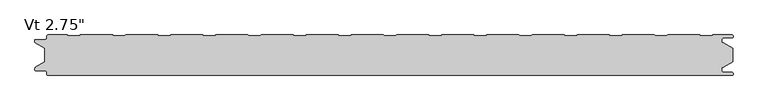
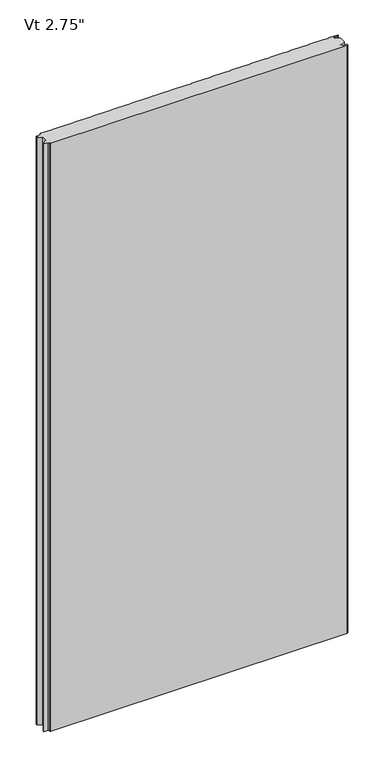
"""IFC4 building model written with IfcOpenShell, lengths in millimetres: plate geometry."""

from ifc_helpers import new_model, si_unit, frame, origin, place, context, project, spatial, polyline, circle_curve, source, transform, mapped, element, save
from ifc_brep_helpers import plane_surface, cylinder_surface, revolved_surface, advanced_brep


def plate_7eeeccd8(model_context):
    return source(origin(), model_context, "Body", "AdvancedBrep", [
        advanced_brep(
        [(-572.4125501, -66.9227194, 2400.0), (-570.4352761, -68.8999935, 2400.0), (574.5475652, -68.9, 2400.0), (576.5248337, -66.9227315, 2400.0), (576.5248337, -65.8806329, 2400.0), (574.5475652, -63.9033643, 2400.0), (560.3591802, -63.9033643, 2400.0), (557.7713036, -61.3154878, 2400.0), (557.7713036, -56.9950697, 2400.0), (557.1628365, -56.4060762, 2400.0), (554.7857432, -56.4060762, 2400.0), (554.7857432, -55.4066023, 2400.0), (560.2280123, -55.4066023, 2400.0), (576.2625, -46.1490865, 2400.0), (576.2625, -23.7509179, 2400.0), (560.2280123, -14.4934021, 2400.0), (554.7857432, -14.4934021, 2400.0), (554.7857432, -13.4939282, 2400.0), (557.1628365, -13.4939282, 2400.0), (557.7713036, -12.9049347, 2400.0), (557.7713036, -8.5845165, 2400.0), (560.3591802, -5.99664, 2400.0), (574.5475652, -5.99664, 2400.0), (576.5248337, -4.0193715, 2400.0), (576.5248337, -2.9772729, 2400.0), (574.5475652, -1.0000044, 2400.0), (542.3760351, -1.0000044, 2400.0), (541.3035142, -2.1911595, 2400.0), (521.5205195, -2.1911595, 2400.0), (520.4479947, -1.0, 2400.0), (466.7534187, -1.0, 2400.0), (465.6808939, -2.1911595, 2400.0), (445.8978992, -2.1911595, 2400.0), (444.8253744, -1.0, 2400.0), (391.1307985, -1.0, 2400.0), (390.0582736, -2.1911595, 2400.0), (370.275279, -2.1911595, 2400.0), (369.2027541, -1.0, 2400.0), (315.5081782, -1.0, 2400.0), (314.4356534, -2.1911595, 2400.0), (294.6526587, -2.1911595, 2400.0), (293.5801339, -1.0, 2400.0), (239.885558, -1.0, 2400.0), (238.8130331, -2.1911595, 2400.0), (219.0300384, -2.1911595, 2400.0), (217.9575136, -1.0, 2400.0), (164.2629377, -1.0, 2400.0), (163.1904129, -2.1911595, 2400.0), (143.4074182, -2.1911595, 2400.0), (142.3348933, -1.0, 2400.0), (88.6403174, -1.0, 2400.0), (87.5677926, -2.1911595, 2400.0), (67.7847979, -2.1911595, 2400.0), (66.7122731, -1.0, 2400.0), (13.0176972, -1.0, 2400.0), (11.9451723, -2.1911595, 2400.0), (-7.8378224, -2.1911595, 2400.0), (-8.9103472, -1.0, 2400.0), (-62.6049231, -1.0, 2400.0), (-63.6774479, -2.1911595, 2400.0), (-83.4604426, -2.1911595, 2400.0), (-84.5329675, -1.0, 2400.0), (-138.2275434, -1.0, 2400.0), (-139.3000682, -2.1911595, 2400.0), (-159.0830629, -2.1911595, 2400.0), (-160.1555877, -1.0, 2400.0), (-213.8501636, -1.0, 2400.0), (-214.9226885, -2.1911595, 2400.0), (-234.7056831, -2.1911595, 2400.0), (-235.778208, -1.0, 2400.0), (-289.4727839, -1.0, 2400.0), (-290.5453087, -2.1911595, 2400.0), (-310.3283034, -2.1911595, 2400.0), (-311.4008282, -1.0, 2400.0), (-365.0954042, -1.0, 2400.0), (-366.167929, -2.1911595, 2400.0), (-385.9509237, -2.1911595, 2400.0), (-387.0234485, -1.0, 2400.0), (-440.7180244, -1.0, 2400.0), (-441.7905493, -2.1911595, 2400.0), (-461.5735439, -2.1911595, 2400.0), (-462.6460688, -1.0, 2400.0), (-516.3406447, -1.0, 2400.0), (-517.4131695, -2.1911595, 2400.0), (-537.1961642, -2.1911595, 2400.0), (-538.268689, -1.0000109, 2400.0), (-570.4352761, -1.0000109, 2400.0), (-572.4125501, -2.9772849, 2400.0), (-572.4125501, -5.2691749, 2400.0), (-576.3898173, -9.246442, 2400.0), (-591.9862417, -9.246442, 2400.0), (-592.5741186, -9.8343189, 2400.0), (-592.5741186, -12.9058679, 2400.0), (-591.986242, -13.4937446, 2400.0), (-589.6312064, -13.4937446, 2400.0), (-589.6312064, -14.4937446, 2400.0), (-591.9207851, -14.4937446, 2400.0), (-576.2625, -23.7509179, 2400.0), (-576.2625, -46.1490865, 2400.0), (-591.9207851, -55.4062598, 2400.0), (-589.6312064, -55.4062598, 2400.0), (-589.6312064, -56.4062598, 2400.0), (-591.986242, -56.4062598, 2400.0), (-592.5741186, -56.9941365, 2400.0), (-592.5741186, -60.0656854, 2400.0), (-591.9862417, -60.6535623, 2400.0), (-576.3898173, -60.6535623, 2400.0), (-572.4125501, -64.6308295, 2400.0), (-572.4125501, -66.9227194, 0.0), (-572.4125501, -64.6308295, 0.0), (-576.3898173, -60.6535623, 0.0), (-591.9862417, -60.6535623, 0.0), (-592.5741186, -60.0656854, 0.0), (-592.5741186, -56.9941365, 0.0), (-591.986242, -56.4062598, 0.0), (-589.6312064, -56.4062598, 0.0), (-589.6312064, -55.4062598, 0.0), (-591.9207851, -55.4062598, 0.0), (-576.2625, -46.1490865, 0.0), (-576.2625, -23.7509179, 0.0), (-591.9207851, -14.4937446, 0.0), (-589.6312064, -14.4937446, 0.0), (-589.6312064, -13.4937446, 0.0), (-591.986242, -13.4937446, 0.0), (-592.5741186, -12.9058679, 0.0), (-592.5741186, -9.8343189, 0.0), (-591.9862417, -9.246442, 0.0), (-576.3898173, -9.246442, 0.0), (-572.4125501, -5.2691749, 0.0), (-572.4125501, -2.9772849, 0.0), (-570.4352761, -1.0000109, 0.0), (-538.268689, -1.0000109, 0.0), (-537.1961642, -2.1911595, 0.0), (-517.4131695, -2.1911595, 0.0), (-516.3406447, -1.0, 0.0), (-462.6460688, -1.0, 0.0), (-461.5735439, -2.1911595, 0.0), (-441.7905493, -2.1911595, 0.0), (-440.7180244, -1.0, 0.0), (-387.0234485, -1.0, 0.0), (-385.9509237, -2.1911595, 0.0), (-366.167929, -2.1911595, 0.0), (-365.0954042, -1.0, 0.0), (-311.4008282, -1.0, 0.0), (-310.3283034, -2.1911595, 0.0), (-290.5453087, -2.1911595, 0.0), (-289.4727839, -1.0, 0.0), (-235.778208, -1.0, 0.0), (-234.7056831, -2.1911595, 0.0), (-214.9226885, -2.1911595, 0.0), (-213.8501636, -1.0, 0.0), (-160.1555877, -1.0, 0.0), (-159.0830629, -2.1911595, 0.0), (-139.3000682, -2.1911595, 0.0), (-138.2275434, -1.0, 0.0), (-84.5329675, -1.0, 0.0), (-83.4604426, -2.1911595, 0.0), (-63.6774479, -2.1911595, 0.0), (-62.6049231, -1.0, 0.0), (-8.9103472, -1.0, 0.0), (-7.8378224, -2.1911595, 0.0), (11.9451723, -2.1911595, 0.0), (13.0176972, -1.0, 0.0), (66.7122731, -1.0, 0.0), (67.7847979, -2.1911595, 0.0), (87.5677926, -2.1911595, 0.0), (88.6403174, -1.0, 0.0), (142.3348933, -1.0, 0.0), (143.4074182, -2.1911595, 0.0), (163.1904129, -2.1911595, 0.0), (164.2629377, -1.0, 0.0), (217.9575136, -1.0, 0.0), (219.0300384, -2.1911595, 0.0), (238.8130331, -2.1911595, 0.0), (239.885558, -1.0, 0.0), (293.5801339, -1.0, 0.0), (294.6526587, -2.1911595, 0.0), (314.4356534, -2.1911595, 0.0), (315.5081782, -1.0, 0.0), (369.2027541, -1.0, 0.0), (370.275279, -2.1911595, 0.0), (390.0582736, -2.1911595, 0.0), (391.1307985, -1.0, 0.0), (444.8253744, -1.0, 0.0), (445.8978992, -2.1911595, 0.0), (465.6808939, -2.1911595, 0.0), (466.7534187, -1.0, 0.0), (520.4479947, -1.0, 0.0), (521.5205195, -2.1911595, 0.0), (541.3035142, -2.1911595, 0.0), (542.3760351, -1.0000044, 0.0), (574.5475652, -1.0000044, 0.0), (576.5248337, -2.9772729, 0.0), (576.5248337, -4.0193715, 0.0), (574.5475652, -5.99664, 0.0), (560.3591802, -5.99664, 0.0), (557.7713036, -8.5845165, 0.0), (557.7713036, -12.9049347, 0.0), (557.1628365, -13.4939282, 0.0), (554.7857432, -13.4939282, 0.0), (554.7857432, -14.4934021, 0.0), (560.2280123, -14.4934021, 0.0), (576.2625, -23.7509179, 0.0), (576.2625, -46.1490865, 0.0), (560.2280123, -55.4066023, 0.0), (554.7857432, -55.4066023, 0.0), (554.7857432, -56.4060762, 0.0), (557.1628365, -56.4060762, 0.0), (557.7713036, -56.9950697, 0.0), (557.7713036, -61.3154878, 0.0), (560.3591802, -63.9033643, 0.0), (574.5475652, -63.9033643, 0.0), (576.5248337, -65.8806329, 0.0), (576.5248337, -66.9227315, 0.0), (574.5475652, -68.9, 0.0), (-570.4352761, -68.9, 0.0)],
        [
            (0, 1, circle_curve(frame((-570.4352761, -66.9227194, 2400.0), z_axis=(0.0, 0.0, 1.0), x_axis=(-1.0, 0.0, 0.0)), 1.977274)),
            (1, 2),
            (2, 3, circle_curve(frame((574.5475652, -66.9227315, 2400.0), z_axis=(0.0, 0.0, 1.0), x_axis=(-1.0, 0.0, 0.0)), 1.9772685)),
            (3, 4),
            (4, 5, circle_curve(frame((574.5475652, -65.8806329, 2400.0), z_axis=(0.0, 0.0, 1.0), x_axis=(-1.0, 0.0, 0.0)), 1.9772685)),
            (5, 6),
            (6, 7, circle_curve(frame((560.3591802, -61.3154878, 2400.0), z_axis=(0.0, 0.0, -1.0), x_axis=(-1.0, 0.0, 0.0)), 2.5878765)),
            (7, 8),
            (8, 9, circle_curve(frame((557.1819985, -56.9950697, 2400.0), z_axis=(0.0, 0.0, 1.0), x_axis=(-1.0, 0.0, 0.0)), 0.5893051)),
            (9, 10),
            (10, 11),
            (11, 12),
            (12, 13),
            (13, 14),
            (14, 15),
            (15, 16),
            (16, 17),
            (17, 18),
            (18, 19, circle_curve(frame((557.1819985, -12.9049347, 2400.0), z_axis=(0.0, 0.0, 1.0), x_axis=(0.0, 1.0, 0.0)), 0.5893051)),
            (19, 20),
            (20, 21, circle_curve(frame((560.3591802, -8.5845165, 2400.0), z_axis=(0.0, 0.0, -1.0), x_axis=(0.0, 1.0, 0.0)), 2.5878765)),
            (21, 22),
            (22, 23, circle_curve(frame((574.5475652, -4.0193715, 2400.0), z_axis=(0.0, 0.0, 1.0), x_axis=(0.0, 1.0, 0.0)), 1.9772685)),
            (23, 24),
            (24, 25, circle_curve(frame((574.5475652, -2.9772729, 2400.0), z_axis=(0.0, 0.0, 1.0), x_axis=(0.0, 1.0, 0.0)), 1.9772685)),
            (25, 26),
            (26, 27),
            (27, 28),
            (28, 29),
            (29, 30),
            (30, 31),
            (31, 32),
            (32, 33),
            (33, 34),
            (34, 35),
            (35, 36),
            (36, 37),
            (37, 38),
            (38, 39),
            (39, 40),
            (40, 41),
            (41, 42),
            (42, 43),
            (43, 44),
            (44, 45),
            (45, 46),
            (46, 47),
            (47, 48),
            (48, 49),
            (49, 50),
            (50, 51),
            (51, 52),
            (52, 53),
            (53, 54),
            (54, 55),
            (55, 56),
            (56, 57),
            (57, 58),
            (58, 59),
            (59, 60),
            (60, 61),
            (61, 62),
            (62, 63),
            (63, 64),
            (64, 65),
            (65, 66),
            (66, 67),
            (67, 68),
            (68, 69),
            (69, 70),
            (70, 71),
            (71, 72),
            (72, 73),
            (73, 74),
            (74, 75),
            (75, 76),
            (76, 77),
            (77, 78),
            (78, 79),
            (79, 80),
            (80, 81),
            (81, 82),
            (82, 83),
            (83, 84),
            (84, 85),
            (85, 86),
            (86, 87, circle_curve(frame((-570.4352761, -2.9772849, 2400.0), z_axis=(0.0, 0.0, 1.0), x_axis=(0.0, 1.0, 0.0)), 1.977274)),
            (87, 88),
            (88, 89, circle_curve(frame((-576.3898173, -5.2691749, 2400.0), z_axis=(0.0, 0.0, -1.0), x_axis=(0.0, 1.0, 0.0)), 3.9772671)),
            (89, 90),
            (90, 91, circle_curve(frame((-591.9862417, -9.8343189, 2400.0), z_axis=(0.0, 0.0, 1.0), x_axis=(0.0, 1.0, 0.0)), 0.5878769)),
            (91, 92),
            (92, 93, circle_curve(frame((-591.986242, -12.9058679, 2400.0), z_axis=(0.0, 0.0, 1.0), x_axis=(0.0, 1.0, 0.0)), 0.5878766)),
            (93, 94),
            (94, 95),
            (95, 96),
            (96, 97),
            (97, 98),
            (98, 99),
            (99, 100),
            (100, 101),
            (101, 102),
            (102, 103, circle_curve(frame((-591.986242, -56.9941365, 2400.0), z_axis=(0.0, 0.0, 1.0), x_axis=(-1.0, 0.0, 0.0)), 0.5878766)),
            (103, 104),
            (104, 105, circle_curve(frame((-591.9862417, -60.0656854, 2400.0), z_axis=(0.0, 0.0, 1.0), x_axis=(-1.0, 0.0, 0.0)), 0.5878769)),
            (105, 106),
            (106, 107, circle_curve(frame((-576.3898173, -64.6308295, 2400.0), z_axis=(0.0, 0.0, -1.0), x_axis=(-1.0, 0.0, 0.0)), 3.9772671)),
            (107, 0),
            (108, 109),
            (109, 110, circle_curve(frame((-576.3898173, -64.6308295, 0.0), z_axis=(0.0, 0.0, 1.0), x_axis=(-1.0, 0.0, 0.0)), 3.9772671)),
            (110, 111),
            (111, 112, circle_curve(frame((-591.9862417, -60.0656854, 0.0), z_axis=(0.0, 0.0, -1.0), x_axis=(-1.0, 0.0, 0.0)), 0.5878769)),
            (112, 113),
            (113, 114, circle_curve(frame((-591.986242, -56.9941365, 0.0), z_axis=(0.0, 0.0, -1.0), x_axis=(-1.0, 0.0, 0.0)), 0.5878766)),
            (114, 115),
            (115, 116),
            (116, 117),
            (117, 118),
            (118, 119),
            (119, 120),
            (120, 121),
            (121, 122),
            (122, 123),
            (123, 124, circle_curve(frame((-591.986242, -12.9058679, 0.0), z_axis=(0.0, 0.0, -1.0), x_axis=(0.0, 1.0, 0.0)), 0.5878766)),
            (124, 125),
            (125, 126, circle_curve(frame((-591.9862417, -9.8343189, 0.0), z_axis=(0.0, 0.0, -1.0), x_axis=(0.0, 1.0, 0.0)), 0.5878769)),
            (126, 127),
            (127, 128, circle_curve(frame((-576.3898173, -5.2691749, 0.0), z_axis=(0.0, 0.0, 1.0), x_axis=(0.0, 1.0, 0.0)), 3.9772671)),
            (128, 129),
            (129, 130, circle_curve(frame((-570.4352761, -2.9772849, 0.0), z_axis=(0.0, 0.0, -1.0), x_axis=(0.0, 1.0, 0.0)), 1.977274)),
            (130, 131),
            (131, 132),
            (132, 133),
            (133, 134),
            (134, 135),
            (135, 136),
            (136, 137),
            (137, 138),
            (138, 139),
            (139, 140),
            (140, 141),
            (141, 142),
            (142, 143),
            (143, 144),
            (144, 145),
            (145, 146),
            (146, 147),
            (147, 148),
            (148, 149),
            (149, 150),
            (150, 151),
            (151, 152),
            (152, 153),
            (153, 154),
            (154, 155),
            (155, 156),
            (156, 157),
            (157, 158),
            (158, 159),
            (159, 160),
            (160, 161),
            (161, 162),
            (162, 163),
            (163, 164),
            (164, 165),
            (165, 166),
            (166, 167),
            (167, 168),
            (168, 169),
            (169, 170),
            (170, 171),
            (171, 172),
            (172, 173),
            (173, 174),
            (174, 175),
            (175, 176),
            (176, 177),
            (177, 178),
            (178, 179),
            (179, 180),
            (180, 181),
            (181, 182),
            (182, 183),
            (183, 184),
            (184, 185),
            (185, 186),
            (186, 187),
            (187, 188),
            (188, 189),
            (189, 190),
            (190, 191),
            (191, 192, circle_curve(frame((574.5475652, -2.9772729, 0.0), z_axis=(0.0, 0.0, -1.0), x_axis=(0.0, 1.0, 0.0)), 1.9772685)),
            (192, 193),
            (193, 194, circle_curve(frame((574.5475652, -4.0193715, 0.0), z_axis=(0.0, 0.0, -1.0), x_axis=(0.0, 1.0, 0.0)), 1.9772685)),
            (194, 195),
            (195, 196, circle_curve(frame((560.3591802, -8.5845165, 0.0), z_axis=(0.0, 0.0, 1.0), x_axis=(0.0, 1.0, 0.0)), 2.5878765)),
            (196, 197),
            (197, 198, circle_curve(frame((557.1819985, -12.9049347, 0.0), z_axis=(0.0, 0.0, -1.0), x_axis=(0.0, 1.0, 0.0)), 0.5893051)),
            (198, 199),
            (199, 200),
            (200, 201),
            (201, 202),
            (202, 203),
            (203, 204),
            (204, 205),
            (205, 206),
            (206, 207),
            (207, 208, circle_curve(frame((557.1819985, -56.9950697, 0.0), z_axis=(0.0, 0.0, -1.0), x_axis=(-1.0, 0.0, 0.0)), 0.5893051)),
            (208, 209),
            (209, 210, circle_curve(frame((560.3591802, -61.3154878, 0.0), z_axis=(0.0, 0.0, 1.0), x_axis=(-1.0, 0.0, 0.0)), 2.5878765)),
            (210, 211),
            (211, 212, circle_curve(frame((574.5475652, -65.8806329, 0.0), z_axis=(0.0, 0.0, -1.0), x_axis=(-1.0, 0.0, 0.0)), 1.9772685)),
            (212, 213),
            (213, 214, circle_curve(frame((574.5475652, -66.9227315, 0.0), z_axis=(0.0, 0.0, -1.0), x_axis=(-1.0, 0.0, 0.0)), 1.9772685)),
            (214, 215),
            (215, 108, circle_curve(frame((-570.4352761, -66.9227194, 0.0), z_axis=(0.0, 0.0, -1.0), x_axis=(-1.0, 0.0, 0.0)), 1.977274)),
            (97, 119),
            (118, 98),
            (13, 203),
            (202, 14),
            (27, 189),
            (188, 28),
            (26, 190),
            (25, 191),
            (24, 192),
            (23, 193),
            (22, 194),
            (21, 195),
            (20, 196),
            (19, 197),
            (18, 198),
            (17, 199),
            (16, 200),
            (15, 201),
            (96, 120),
            (95, 121),
            (94, 122),
            (93, 123),
            (92, 124),
            (91, 125),
            (90, 126),
            (89, 127),
            (88, 128),
            (87, 129),
            (86, 130),
            (85, 131),
            (84, 132),
            (83, 133),
            (82, 134),
            (81, 135),
            (80, 136),
            (79, 137),
            (78, 138),
            (77, 139),
            (76, 140),
            (75, 141),
            (74, 142),
            (73, 143),
            (72, 144),
            (71, 145),
            (70, 146),
            (69, 147),
            (68, 148),
            (67, 149),
            (66, 150),
            (65, 151),
            (64, 152),
            (63, 153),
            (62, 154),
            (61, 155),
            (60, 156),
            (59, 157),
            (58, 158),
            (57, 159),
            (56, 160),
            (55, 161),
            (54, 162),
            (53, 163),
            (52, 164),
            (51, 165),
            (50, 166),
            (49, 167),
            (48, 168),
            (47, 169),
            (46, 170),
            (45, 171),
            (44, 172),
            (43, 173),
            (42, 174),
            (41, 175),
            (40, 176),
            (39, 177),
            (38, 178),
            (37, 179),
            (36, 180),
            (35, 181),
            (34, 182),
            (33, 183),
            (32, 184),
            (31, 185),
            (30, 186),
            (29, 187),
            (107, 109),
            (108, 0),
            (106, 110),
            (105, 111),
            (104, 112),
            (103, 113),
            (102, 114),
            (101, 115),
            (100, 116),
            (99, 117),
            (12, 204),
            (11, 205),
            (10, 206),
            (9, 207),
            (8, 208),
            (7, 209),
            (6, 210),
            (5, 211),
            (4, 212),
            (3, 213),
            (2, 214),
            (1, 215),
        ],
        [
            plane_surface(frame((0.0, -68.9, 2400.0), z_axis=(0.0, 0.0, 1.0), x_axis=(0.0, -1.0, 0.0))),
            plane_surface(frame((0.0, -68.9, 0.0), z_axis=(0.0, 0.0, -1.0), x_axis=(0.0, -1.0, 0.0))),
            plane_surface(frame((-576.2625, -46.1490865, 2400.0), z_axis=(-1.0, 0.0, 0.0), x_axis=(0.0, 0.0, -1.0))),
            plane_surface(frame((576.2625, -23.7509179, 2400.0), z_axis=(1.0, 0.0, 0.0), x_axis=(0.0, 0.0, -1.0))),
            plane_surface(frame((521.5205195, -2.1911595, 2400.0), z_axis=(0.0, 1.0, 0.0), x_axis=(0.0, 0.0, -1.0))),
            plane_surface(frame((541.3035142, -2.1911595, 2400.0), z_axis=(-0.7431448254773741, 0.6691306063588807, 0.0), x_axis=(0.0, 0.0, -1.0))),
            plane_surface(frame((542.3760351, -1.0000044, 2400.0), z_axis=(0.0, 1.0, 0.0), x_axis=(0.0, 0.0, -1.0))),
            cylinder_surface(frame((574.5475652, -2.9772729, 2400.0), z_axis=(0.0, 0.0, 1.0), x_axis=(0.0, 1.0, 0.0)), 1.9772685),
            plane_surface(frame((576.5248337, -2.9772729, 2400.0), z_axis=(1.0, 0.0, 0.0), x_axis=(0.0, 0.0, -1.0))),
            cylinder_surface(frame((574.5475652, -4.0193715, 2400.0), z_axis=(0.0, 0.0, 1.0), x_axis=(0.0, 1.0, 0.0)), 1.9772685),
            plane_surface(frame((574.5475652, -5.99664, 2400.0), z_axis=(0.0, -1.0, 0.0), x_axis=(0.0, 0.0, -1.0))),
            revolved_surface(polyline([(560.3591802, -5.996639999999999, 0.0), (560.3591802, -5.996639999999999, 2400.0)]), (560.3591802, -8.5845165, 2400.0), (0.0, 0.0, -1.0)),
            plane_surface(frame((557.7713036, -8.5845165, 2400.0), z_axis=(1.0, 0.0, 0.0), x_axis=(0.0, 0.0, -1.0))),
            cylinder_surface(frame((557.1819985, -12.9049347, 2400.0), z_axis=(0.0, 0.0, 1.0), x_axis=(0.0, 1.0, 0.0)), 0.5893051),
            plane_surface(frame((557.1628365, -13.4939282, 2400.0), z_axis=(0.0, -1.0, 0.0), x_axis=(0.0, 0.0, -1.0))),
            plane_surface(frame((554.7857432, -13.4939282, 2400.0), z_axis=(1.0, 0.0, 0.0), x_axis=(0.0, 0.0, -1.0))),
            plane_surface(frame((554.7857432, -14.4934021, 2400.0), z_axis=(0.0, 1.0, 0.0), x_axis=(0.0, 0.0, -1.0))),
            plane_surface(frame((560.2280123, -14.4934021, 2400.0), z_axis=(0.5000000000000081, 0.866025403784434, 0.0), x_axis=(0.0, 0.0, -1.0))),
            plane_surface(frame((-576.2625, -23.7509179, 2400.0), z_axis=(-0.5089147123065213, -0.860816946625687, 0.0), x_axis=(0.0, 0.0, -1.0))),
            plane_surface(frame((-591.9207851, -14.4937446, 2400.0), z_axis=(0.0, 1.0, 0.0), x_axis=(0.0, 0.0, -1.0))),
            plane_surface(frame((-589.6312064, -14.4937446, 2400.0), z_axis=(-1.0, 0.0, 0.0), x_axis=(0.0, 0.0, -1.0))),
            plane_surface(frame((-589.6312064, -13.4937446, 2400.0), z_axis=(0.0, -1.0, 0.0), x_axis=(0.0, 0.0, -1.0))),
            cylinder_surface(frame((-591.986242, -12.9058679, 2400.0), z_axis=(0.0, 0.0, 1.0), x_axis=(0.0, 1.0, 0.0)), 0.5878766),
            plane_surface(frame((-592.5741186, -12.9058679, 2400.0), z_axis=(-1.0, 0.0, 0.0), x_axis=(0.0, 0.0, -1.0))),
            cylinder_surface(frame((-591.9862417, -9.8343189, 2400.0), z_axis=(0.0, 0.0, 1.0), x_axis=(0.0, 1.0, 0.0)), 0.5878769),
            plane_surface(frame((-591.9862417, -9.246442, 2400.0), z_axis=(0.0, 1.0, 0.0), x_axis=(0.0, 0.0, -1.0))),
            revolved_surface(polyline([(-576.3898173, -1.2919078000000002, 0.0), (-576.3898173, -1.2919078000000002, 2400.0)]), (-576.3898173, -5.2691749, 2400.0), (0.0, 0.0, -1.0)),
            plane_surface(frame((-572.4125501, -5.2691749, 2400.0), z_axis=(-1.0, 0.0, 0.0), x_axis=(0.0, 0.0, -1.0))),
            cylinder_surface(frame((-570.4352761, -2.9772849, 2400.0), z_axis=(0.0, 0.0, 1.0), x_axis=(0.0, 1.0, 0.0)), 1.977274),
            plane_surface(frame((-570.4352761, -1.0000109, 2400.0), z_axis=(0.0, 1.0, 0.0), x_axis=(0.0, 0.0, -1.0))),
            plane_surface(frame((-538.268689, -1.0000109, 2400.0), z_axis=(0.7431417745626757, 0.669133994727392, 0.0), x_axis=(0.0, 0.0, -1.0))),
            plane_surface(frame((-537.1961642, -2.1911595, 2400.0), z_axis=(0.0, 1.0, 0.0), x_axis=(0.0, 0.0, -1.0))),
            plane_surface(frame((-517.4131695, -2.1911595, 2400.0), z_axis=(-0.7431448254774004, 0.6691306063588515, 0.0), x_axis=(0.0, 0.0, -1.0))),
            plane_surface(frame((-516.3406447, -1.0, 2400.0), z_axis=(0.0, 1.0, 0.0), x_axis=(0.0, 0.0, -1.0))),
            plane_surface(frame((-462.6460688, -1.0, 2400.0), z_axis=(0.7431448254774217, 0.6691306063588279, 0.0), x_axis=(0.0, 0.0, -1.0))),
            plane_surface(frame((-461.5735439, -2.1911595, 2400.0), z_axis=(0.0, 1.0, 0.0), x_axis=(0.0, 0.0, -1.0))),
            plane_surface(frame((-441.7905493, -2.1911595, 2400.0), z_axis=(-0.7431448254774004, 0.6691306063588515, 0.0), x_axis=(0.0, 0.0, -1.0))),
            plane_surface(frame((-440.7180244, -1.0, 2400.0), z_axis=(0.0, 1.0, 0.0), x_axis=(0.0, 0.0, -1.0))),
            plane_surface(frame((-387.0234485, -1.0, 2400.0), z_axis=(0.7431448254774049, 0.6691306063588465, 0.0), x_axis=(0.0, 0.0, -1.0))),
            plane_surface(frame((-385.9509237, -2.1911595, 2400.0), z_axis=(0.0, 1.0, 0.0), x_axis=(0.0, 0.0, -1.0))),
            plane_surface(frame((-366.167929, -2.1911595, 2400.0), z_axis=(-0.7431448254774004, 0.6691306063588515, 0.0), x_axis=(0.0, 0.0, -1.0))),
            plane_surface(frame((-365.0954042, -1.0, 2400.0), z_axis=(0.0, 1.0, 0.0), x_axis=(0.0, 0.0, -1.0))),
            plane_surface(frame((-311.4008282, -1.0, 2400.0), z_axis=(0.7431448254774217, 0.6691306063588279, 0.0), x_axis=(0.0, 0.0, -1.0))),
            plane_surface(frame((-310.3283034, -2.1911595, 2400.0), z_axis=(0.0, 1.0, 0.0), x_axis=(0.0, 0.0, -1.0))),
            plane_surface(frame((-290.5453087, -2.1911595, 2400.0), z_axis=(-0.7431448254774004, 0.6691306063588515, 0.0), x_axis=(0.0, 0.0, -1.0))),
            plane_surface(frame((-289.4727839, -1.0, 2400.0), z_axis=(0.0, 1.0, 0.0), x_axis=(0.0, 0.0, -1.0))),
            plane_surface(frame((-235.778208, -1.0, 2400.0), z_axis=(0.7431448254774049, 0.6691306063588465, 0.0), x_axis=(0.0, 0.0, -1.0))),
            plane_surface(frame((-234.7056831, -2.1911595, 2400.0), z_axis=(0.0, 1.0, 0.0), x_axis=(0.0, 0.0, -1.0))),
            plane_surface(frame((-214.9226885, -2.1911595, 2400.0), z_axis=(-0.7431448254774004, 0.6691306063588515, 0.0), x_axis=(0.0, 0.0, -1.0))),
            plane_surface(frame((-213.8501636, -1.0, 2400.0), z_axis=(0.0, 1.0, 0.0), x_axis=(0.0, 0.0, -1.0))),
            plane_surface(frame((-160.1555877, -1.0, 2400.0), z_axis=(0.7431448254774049, 0.6691306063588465, 0.0), x_axis=(0.0, 0.0, -1.0))),
            plane_surface(frame((-159.0830629, -2.1911595, 2400.0), z_axis=(0.0, 1.0, 0.0), x_axis=(0.0, 0.0, -1.0))),
            plane_surface(frame((-139.3000682, -2.1911595, 2400.0), z_axis=(-0.7431448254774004, 0.6691306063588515, 0.0), x_axis=(0.0, 0.0, -1.0))),
            plane_surface(frame((-138.2275434, -1.0, 2400.0), z_axis=(0.0, 1.0, 0.0), x_axis=(0.0, 0.0, -1.0))),
            plane_surface(frame((-84.5329675, -1.0, 2400.0), z_axis=(0.7431448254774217, 0.6691306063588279, 0.0), x_axis=(0.0, 0.0, -1.0))),
            plane_surface(frame((-83.4604426, -2.1911595, 2400.0), z_axis=(0.0, 1.0, 0.0), x_axis=(0.0, 0.0, -1.0))),
            plane_surface(frame((-63.6774479, -2.1911595, 2400.0), z_axis=(-0.7431448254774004, 0.6691306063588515, 0.0), x_axis=(0.0, 0.0, -1.0))),
            plane_surface(frame((-62.6049231, -1.0, 2400.0), z_axis=(0.0, 1.0, 0.0), x_axis=(0.0, 0.0, -1.0))),
            plane_surface(frame((-8.9103472, -1.0, 2400.0), z_axis=(0.7431448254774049, 0.6691306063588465, 0.0), x_axis=(0.0, 0.0, -1.0))),
            plane_surface(frame((-7.8378224, -2.1911595, 2400.0), z_axis=(0.0, 1.0, 0.0), x_axis=(0.0, 0.0, -1.0))),
            plane_surface(frame((11.9451723, -2.1911595, 2400.0), z_axis=(-0.7431448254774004, 0.6691306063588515, 0.0), x_axis=(0.0, 0.0, -1.0))),
            plane_surface(frame((13.0176972, -1.0, 2400.0), z_axis=(0.0, 1.0, 0.0), x_axis=(0.0, 0.0, -1.0))),
            plane_surface(frame((66.7122731, -1.0, 2400.0), z_axis=(0.7431448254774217, 0.6691306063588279, 0.0), x_axis=(0.0, 0.0, -1.0))),
            plane_surface(frame((67.7847979, -2.1911595, 2400.0), z_axis=(0.0, 1.0, 0.0), x_axis=(0.0, 0.0, -1.0))),
            plane_surface(frame((87.5677926, -2.1911595, 2400.0), z_axis=(-0.7431448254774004, 0.6691306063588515, 0.0), x_axis=(0.0, 0.0, -1.0))),
            plane_surface(frame((88.6403174, -1.0, 2400.0), z_axis=(0.0, 1.0, 0.0), x_axis=(0.0, 0.0, -1.0))),
            plane_surface(frame((142.3348933, -1.0, 2400.0), z_axis=(0.7431448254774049, 0.6691306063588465, 0.0), x_axis=(0.0, 0.0, -1.0))),
            plane_surface(frame((143.4074182, -2.1911595, 2400.0), z_axis=(0.0, 1.0, 0.0), x_axis=(0.0, 0.0, -1.0))),
            plane_surface(frame((163.1904129, -2.1911595, 2400.0), z_axis=(-0.7431448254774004, 0.6691306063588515, 0.0), x_axis=(0.0, 0.0, -1.0))),
            plane_surface(frame((164.2629377, -1.0, 2400.0), z_axis=(0.0, 1.0, 0.0), x_axis=(0.0, 0.0, -1.0))),
            plane_surface(frame((217.9575136, -1.0, 2400.0), z_axis=(0.7431448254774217, 0.6691306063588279, 0.0), x_axis=(0.0, 0.0, -1.0))),
            plane_surface(frame((219.0300384, -2.1911595, 2400.0), z_axis=(0.0, 1.0, 0.0), x_axis=(0.0, 0.0, -1.0))),
            plane_surface(frame((238.8130331, -2.1911595, 2400.0), z_axis=(-0.7431448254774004, 0.6691306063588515, 0.0), x_axis=(0.0, 0.0, -1.0))),
            plane_surface(frame((239.885558, -1.0, 2400.0), z_axis=(0.0, 1.0, 0.0), x_axis=(0.0, 0.0, -1.0))),
            plane_surface(frame((293.5801339, -1.0, 2400.0), z_axis=(0.7431448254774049, 0.6691306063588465, 0.0), x_axis=(0.0, 0.0, -1.0))),
            plane_surface(frame((294.6526587, -2.1911595, 2400.0), z_axis=(0.0, 1.0, 0.0), x_axis=(0.0, 0.0, -1.0))),
            plane_surface(frame((314.4356534, -2.1911595, 2400.0), z_axis=(-0.7431448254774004, 0.6691306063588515, 0.0), x_axis=(0.0, 0.0, -1.0))),
            plane_surface(frame((315.5081782, -1.0, 2400.0), z_axis=(0.0, 1.0, 0.0), x_axis=(0.0, 0.0, -1.0))),
            plane_surface(frame((369.2027541, -1.0, 2400.0), z_axis=(0.7431448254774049, 0.6691306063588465, 0.0), x_axis=(0.0, 0.0, -1.0))),
            plane_surface(frame((370.275279, -2.1911595, 2400.0), z_axis=(0.0, 1.0, 0.0), x_axis=(0.0, 0.0, -1.0))),
            plane_surface(frame((390.0582736, -2.1911595, 2400.0), z_axis=(-0.7431448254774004, 0.6691306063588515, 0.0), x_axis=(0.0, 0.0, -1.0))),
            plane_surface(frame((391.1307985, -1.0, 2400.0), z_axis=(0.0, 1.0, 0.0), x_axis=(0.0, 0.0, -1.0))),
            plane_surface(frame((444.8253744, -1.0, 2400.0), z_axis=(0.7431448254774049, 0.6691306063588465, 0.0), x_axis=(0.0, 0.0, -1.0))),
            plane_surface(frame((445.8978992, -2.1911595, 2400.0), z_axis=(0.0, 1.0, 0.0), x_axis=(0.0, 0.0, -1.0))),
            plane_surface(frame((465.6808939, -2.1911595, 2400.0), z_axis=(-0.7431448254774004, 0.6691306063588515, 0.0), x_axis=(0.0, 0.0, -1.0))),
            plane_surface(frame((466.7534187, -1.0, 2400.0), z_axis=(0.0, 1.0, 0.0), x_axis=(0.0, 0.0, -1.0))),
            plane_surface(frame((520.4479947, -1.0, 2400.0), z_axis=(0.7431448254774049, 0.6691306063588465, 0.0), x_axis=(0.0, 0.0, -1.0))),
            plane_surface(frame((-572.4125501, -66.9227194, 2400.0), z_axis=(-1.0, 0.0, 0.0), x_axis=(0.0, 0.0, -1.0))),
            revolved_surface(polyline([(-580.3670844, -64.6308295, 0.0), (-580.3670844, -64.6308295, 2400.0)]), (-576.3898173, -64.6308295, 2400.0), (0.0, 0.0, -1.0)),
            plane_surface(frame((-576.3898173, -60.6535623, 2400.0), z_axis=(0.0, -1.0, 0.0), x_axis=(0.0, 0.0, -1.0))),
            cylinder_surface(frame((-591.9862417, -60.0656854, 2400.0), z_axis=(0.0, 0.0, 1.0), x_axis=(-1.0, 0.0, 0.0)), 0.5878769),
            plane_surface(frame((-592.5741186, -60.0656854, 2400.0), z_axis=(-1.0, 0.0, 0.0), x_axis=(0.0, 0.0, -1.0))),
            cylinder_surface(frame((-591.986242, -56.9941365, 2400.0), z_axis=(0.0, 0.0, 1.0), x_axis=(-1.0, 0.0, 0.0)), 0.5878766),
            plane_surface(frame((-591.986242, -56.4062598, 2400.0), z_axis=(0.0, 1.0, 0.0), x_axis=(0.0, 0.0, -1.0))),
            plane_surface(frame((-589.6312064, -56.4062598, 2400.0), z_axis=(-1.0, 0.0, 0.0), x_axis=(0.0, 0.0, -1.0))),
            plane_surface(frame((-589.6312064, -55.4062598, 2400.0), z_axis=(0.0, -1.0, 0.0), x_axis=(0.0, 0.0, -1.0))),
            plane_surface(frame((-591.9207851, -55.4062598, 2400.0), z_axis=(-0.5089147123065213, 0.860816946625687, 0.0), x_axis=(0.0, 0.0, -1.0))),
            plane_surface(frame((576.2625, -46.1490865, 2400.0), z_axis=(0.500000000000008, -0.866025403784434, 0.0), x_axis=(0.0, 0.0, -1.0))),
            plane_surface(frame((560.2280123, -55.4066023, 2400.0), z_axis=(0.0, -1.0, 0.0), x_axis=(0.0, 0.0, -1.0))),
            plane_surface(frame((554.7857432, -55.4066023, 2400.0), z_axis=(1.0, 0.0, 0.0), x_axis=(0.0, 0.0, -1.0))),
            plane_surface(frame((554.7857432, -56.4060762, 2400.0), z_axis=(0.0, 1.0, 0.0), x_axis=(0.0, 0.0, -1.0))),
            cylinder_surface(frame((557.1819985, -56.9950697, 2400.0), z_axis=(0.0, 0.0, 1.0), x_axis=(-1.0, 0.0, 0.0)), 0.5893051),
            plane_surface(frame((557.7713036, -56.9950697, 2400.0), z_axis=(1.0, 0.0, 0.0), x_axis=(0.0, 0.0, -1.0))),
            revolved_surface(polyline([(557.7713037, -61.3154878, 0.0), (557.7713037, -61.3154878, 2400.0)]), (560.3591802, -61.3154878, 2400.0), (0.0, 0.0, -1.0)),
            plane_surface(frame((560.3591802, -63.9033643, 2400.0), z_axis=(0.0, 1.0, 0.0), x_axis=(0.0, 0.0, -1.0))),
            cylinder_surface(frame((574.5475652, -65.8806329, 2400.0), z_axis=(0.0, 0.0, 1.0), x_axis=(-1.0, 0.0, 0.0)), 1.9772685),
            plane_surface(frame((576.5248337, -65.8806329, 2400.0), z_axis=(1.0, 0.0, 0.0), x_axis=(0.0, 0.0, -1.0))),
            cylinder_surface(frame((574.5475652, -66.9227315, 2400.0), z_axis=(0.0, 0.0, 1.0), x_axis=(-1.0, 0.0, 0.0)), 1.9772685),
            plane_surface(frame((574.5475652, -68.9, 2400.0), z_axis=(0.0, -1.0, 0.0), x_axis=(0.0, 0.0, -1.0))),
            cylinder_surface(frame((-570.4352761, -66.9227194, 2400.0), z_axis=(0.0, 0.0, 1.0), x_axis=(-1.0, 0.0, 0.0)), 1.977274),
        ],
        [
            (0, [[1, 2, 3, 4, 5, 6, 7, 8, 9, 10, 11, 12, 13, 14, 15, 16, 17, 18, 19, 20, 21, 22, 23, 24, 25, 26, 27, 28, 29, 30, 31, 32, 33, 34, 35, 36, 37, 38, 39, 40, 41, 42, 43, 44, 45, 46, 47, 48, 49, 50, 51, 52, 53, 54, 55, 56, 57, 58, 59, 60, 61, 62, 63, 64, 65, 66, 67, 68, 69, 70, 71, 72, 73, 74, 75, 76, 77, 78, 79, 80, 81, 82, 83, 84, 85, 86, 87, 88, 89, 90, 91, 92, 93, 94, 95, 96, 97, 98, 99, 100, 101, 102, 103, 104, 105, 106, 107, 108]]),
            (1, [[109, 110, 111, 112, 113, 114, 115, 116, 117, 118, 119, 120, 121, 122, 123, 124, 125, 126, 127, 128, 129, 130, 131, 132, 133, 134, 135, 136, 137, 138, 139, 140, 141, 142, 143, 144, 145, 146, 147, 148, 149, 150, 151, 152, 153, 154, 155, 156, 157, 158, 159, 160, 161, 162, 163, 164, 165, 166, 167, 168, 169, 170, 171, 172, 173, 174, 175, 176, 177, 178, 179, 180, 181, 182, 183, 184, 185, 186, 187, 188, 189, 190, 191, 192, 193, 194, 195, 196, 197, 198, 199, 200, 201, 202, 203, 204, 205, 206, 207, 208, 209, 210, 211, 212, 213, 214, 215, 216]]),
            (2, [[217, -119, 218, -98]]),
            (3, [[219, -203, 220, -14]]),
            (4, [[221, -189, 222, -28]]),
            (5, [[223, -190, -221, -27]]),
            (6, [[224, -191, -223, -26]]),
            (7, [[225, -192, -224, -25]]),
            (8, [[226, -193, -225, -24]]),
            (9, [[227, -194, -226, -23]]),
            (10, [[228, -195, -227, -22]]),
            (11, [[229, -196, -228, -21]]),
            (12, [[230, -197, -229, -20]]),
            (13, [[231, -198, -230, -19]]),
            (14, [[232, -199, -231, -18]]),
            (15, [[233, -200, -232, -17]]),
            (16, [[234, -201, -233, -16]]),
            (17, [[-220, -202, -234, -15]]),
            (18, [[235, -120, -217, -97]]),
            (19, [[236, -121, -235, -96]]),
            (20, [[237, -122, -236, -95]]),
            (21, [[238, -123, -237, -94]]),
            (22, [[239, -124, -238, -93]]),
            (23, [[240, -125, -239, -92]]),
            (24, [[241, -126, -240, -91]]),
            (25, [[242, -127, -241, -90]]),
            (26, [[243, -128, -242, -89]]),
            (27, [[244, -129, -243, -88]]),
            (28, [[245, -130, -244, -87]]),
            (29, [[246, -131, -245, -86]]),
            (30, [[247, -132, -246, -85]]),
            (31, [[248, -133, -247, -84]]),
            (32, [[249, -134, -248, -83]]),
            (33, [[250, -135, -249, -82]]),
            (34, [[251, -136, -250, -81]]),
            (35, [[252, -137, -251, -80]]),
            (36, [[253, -138, -252, -79]]),
            (37, [[254, -139, -253, -78]]),
            (38, [[255, -140, -254, -77]]),
            (39, [[256, -141, -255, -76]]),
            (40, [[257, -142, -256, -75]]),
            (41, [[258, -143, -257, -74]]),
            (42, [[259, -144, -258, -73]]),
            (43, [[260, -145, -259, -72]]),
            (44, [[261, -146, -260, -71]]),
            (45, [[262, -147, -261, -70]]),
            (46, [[263, -148, -262, -69]]),
            (47, [[264, -149, -263, -68]]),
            (48, [[265, -150, -264, -67]]),
            (49, [[266, -151, -265, -66]]),
            (50, [[267, -152, -266, -65]]),
            (51, [[268, -153, -267, -64]]),
            (52, [[269, -154, -268, -63]]),
            (53, [[270, -155, -269, -62]]),
            (54, [[271, -156, -270, -61]]),
            (55, [[272, -157, -271, -60]]),
            (56, [[273, -158, -272, -59]]),
            (57, [[274, -159, -273, -58]]),
            (58, [[275, -160, -274, -57]]),
            (59, [[276, -161, -275, -56]]),
            (60, [[277, -162, -276, -55]]),
            (61, [[278, -163, -277, -54]]),
            (62, [[279, -164, -278, -53]]),
            (63, [[280, -165, -279, -52]]),
            (64, [[281, -166, -280, -51]]),
            (65, [[282, -167, -281, -50]]),
            (66, [[283, -168, -282, -49]]),
            (67, [[284, -169, -283, -48]]),
            (68, [[285, -170, -284, -47]]),
            (69, [[286, -171, -285, -46]]),
            (70, [[287, -172, -286, -45]]),
            (71, [[288, -173, -287, -44]]),
            (72, [[289, -174, -288, -43]]),
            (73, [[290, -175, -289, -42]]),
            (74, [[291, -176, -290, -41]]),
            (75, [[292, -177, -291, -40]]),
            (76, [[293, -178, -292, -39]]),
            (77, [[294, -179, -293, -38]]),
            (78, [[295, -180, -294, -37]]),
            (79, [[296, -181, -295, -36]]),
            (80, [[297, -182, -296, -35]]),
            (81, [[298, -183, -297, -34]]),
            (82, [[299, -184, -298, -33]]),
            (83, [[300, -185, -299, -32]]),
            (84, [[301, -186, -300, -31]]),
            (85, [[302, -187, -301, -30]]),
            (86, [[-222, -188, -302, -29]]),
            (87, [[303, -109, 304, -108]]),
            (88, [[305, -110, -303, -107]]),
            (89, [[306, -111, -305, -106]]),
            (90, [[307, -112, -306, -105]]),
            (91, [[308, -113, -307, -104]]),
            (92, [[309, -114, -308, -103]]),
            (93, [[310, -115, -309, -102]]),
            (94, [[311, -116, -310, -101]]),
            (95, [[312, -117, -311, -100]]),
            (96, [[-218, -118, -312, -99]]),
            (97, [[313, -204, -219, -13]]),
            (98, [[314, -205, -313, -12]]),
            (99, [[315, -206, -314, -11]]),
            (100, [[316, -207, -315, -10]]),
            (101, [[317, -208, -316, -9]]),
            (102, [[318, -209, -317, -8]]),
            (103, [[319, -210, -318, -7]]),
            (104, [[320, -211, -319, -6]]),
            (105, [[321, -212, -320, -5]]),
            (106, [[322, -213, -321, -4]]),
            (107, [[323, -214, -322, -3]]),
            (108, [[324, -215, -323, -2]]),
            (109, [[-304, -216, -324, -1]]),
        ],
    ),
    ])


if __name__ == "__main__":
    model = new_model("IFC4")
    model_context = context("Model", 3, world=origin())
    ifc_project = project(units=[si_unit("LENGTHUNIT", "METRE", prefix="MILLI")], contexts=[model_context])
    site = spatial("IfcSite", under=ifc_project)
    building = spatial("IfcBuilding", under=site)
    placement = place(None, origin())
    plate_shape = plate_7eeeccd8(model_context)
    element("IfcPlate", 1, ObjectType="KIP-SLI-FLI-R19-CP-Vt-FL_SL : Vt 2.75\"", at=placement, inside=building, context=model_context, shape_type="MappedRepresentation", body=[
        mapped(plate_shape, transform((0.0, 0.0, 0.0), x_axis=(1.0, 0.0, 0.0), y_axis=(0.0, 1.0, 0.0), z_axis=(0.0, 0.0, 1.0))),
    ])
    save(model, "model.ifc")
